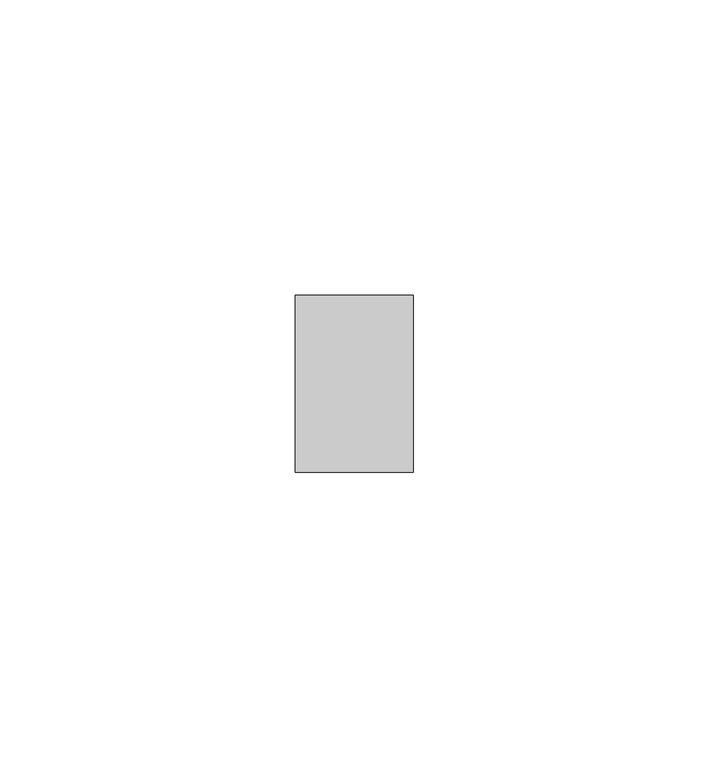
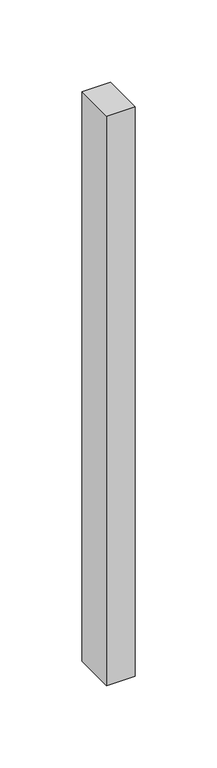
"""IFC4 building model written with IfcOpenShell, lengths in millimetres: member geometry, Прямоугольный импост : Квадрат 10 мм - Зазор между навесными плитами."""

from ifc_helpers import new_model, si_unit, frame, origin, place, context, project, spatial, polyline, outline, extrude, source, transform, mapped, element, save


def member_d96cd7eb(model_context):
    return source(origin(), model_context, "Body", "SweptSolid", [
        extrude(outline(polyline([(0.0, 15.0), (0.0, -15.0), (-20.0, -15.0), (-20.0, 15.0), (0.0, 15.0)])), frame((0.0, 0.0, -423.5340621), z_axis=(0.0, 0.0, 1.0), x_axis=(1.0, 0.0, 0.0)), (0.0, 0.0, 1.0), 423.5340621),
    ])


if __name__ == "__main__":
    model = new_model("IFC4")
    model_context = context("Model", 3, world=origin())
    ifc_project = project(units=[si_unit("LENGTHUNIT", "METRE", prefix="MILLI")], contexts=[model_context])
    site = spatial("IfcSite", under=ifc_project)
    building = spatial("IfcBuilding", under=site)
    placement = place(None, origin())
    member_shape = member_d96cd7eb(model_context)
    element("IfcMember", 1, ObjectType="Прямоугольный импост : Квадрат 10 мм - Зазор между навесными плитами", at=placement, inside=building, context=model_context, shape_type="MappedRepresentation", body=[
        mapped(member_shape, transform((0.0, 0.0, 0.0), x_axis=(1.0, 0.0, 0.0), y_axis=(0.0, 1.0, 0.0), z_axis=(0.0, 0.0, 1.0))),
    ])
    save(model, "model.ifc")
